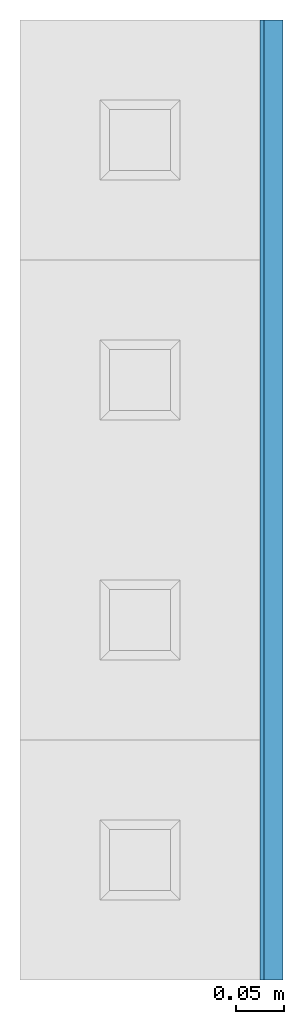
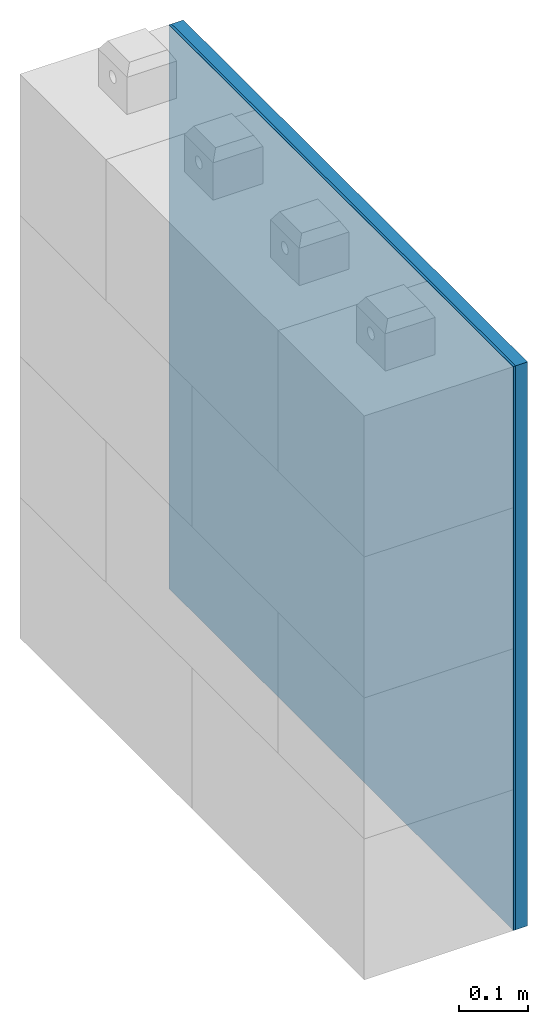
# One storey, incomplete: 2 walls.
"""IFC4 building model written with IfcOpenShell, lengths in centimetres."""

from ifc_helpers import new_model, si_unit, direction, frame, origin, place, context, subcontext, project, spatial, indexed_curve, outline, extrude, material, constituent, constituent_set, type_object, element, save


model = new_model("IFC4")

# Units and contexts
model_context = context("Model", 3, precision=0.001, world=origin(), true_north=direction((0.0, 1.0)))
body_context = subcontext(model_context, "Body", "Model", "MODEL_VIEW")
ifc_project = project(units=[si_unit("LENGTHUNIT", "METRE", prefix="CENTI"), si_unit("AREAUNIT", "SQUARE_METRE"), si_unit("VOLUMEUNIT", "CUBIC_METRE")], contexts=[model_context])

# Site, building, storey
site_placement = place(None, origin())
site = spatial("IfcSite", under=ifc_project, at=site_placement, Name="Default", CompositionType="ELEMENT")
building_placement = place(site_placement, origin())
building = spatial("IfcBuilding", under=site, at=building_placement, CompositionType="ELEMENT")
storey_placement = place(building_placement, frame((0.0, 0.0, -12.0)))
storey = spatial("IfcBuildingStorey", under=building, at=storey_placement, Name="L00__ABOVE Slab", CompositionType="ELEMENT", Elevation=-12.000000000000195)

# Walls
ifc_material_1 = material(Name="_WLL & CLG FINISHES__Spray-cork", Category="플라스틱")
ifc_constituent = constituent(ifc_material_1, Name="_WLL & CLG FINISHES__Spray-cork", Category="플라스틱", fraction=1.0)
ifc_constituent_set = constituent_set(constituents=[ifc_constituent], Name="Basic Wall:wll__INT FINISH__Spritzkork 0.4cm__TriqBriq, TN.1")
wall_type_1 = type_object("IfcWallType", Name="Walls : Basic Wall : wll__INT FINISH__Spritzkork 0.4cm__TriqBriq, TN.1", PredefinedType="STANDARD", material=ifc_constituent_set)
wall_1_placement = place(storey_placement, frame((4643.349456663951, 1920.4017723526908, 10.0), z_axis=(0.0, 0.0, 1.0), x_axis=(0.0, -1.0, 0.0)))
element("IfcWall", 1, at=wall_1_placement, inside=storey, type_object=wall_type_1, material=ifc_constituent_set, Name="Walls : Basic Wall : wll__INT FINISH__Spritzkork 0.4cm__TriqBriq, TN.1", PredefinedType="NOTDEFINED", context=body_context, shape_type="SweptSolid", body=[
    extrude(outline(indexed_curve([(100.00000000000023, 0.2000000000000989), (-2.8876456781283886e-16, 0.19999999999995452), (2.8876456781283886e-16, -0.19999999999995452), (100.00000000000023, -0.19999999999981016), (100.00000000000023, 0.2000000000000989)], self_intersect=False)), origin(), (0.0, 0.0, 1.0), 100.00000000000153),
])
ifc_material_2 = material(Name="_STRUCTURE__WoodVertical")
wall_type_2 = type_object("IfcWallType", Name="Walls : Basic Wall : wll__EXT__Holzfassafenprofil1__TriqBriq", PredefinedType="STANDARD")
wall_2_placement = place(storey_placement, frame((4644.549456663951, 1920.4017723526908, 10.0), z_axis=(0.0, 0.0, 1.0), x_axis=(0.0, -1.0, 0.0)))
element("IfcWall", 2, at=wall_2_placement, inside=storey, type_object=wall_type_2, material=ifc_material_2, Name="Walls : Basic Wall : wll__EXT__Holzfassafenprofil1__TriqBriq", PredefinedType="NOTDEFINED", context=body_context, shape_type="SweptSolid", body=[
    extrude(outline(indexed_curve([(100.00000000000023, 0.9999999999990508), (-1.4438228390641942e-15, 0.9999999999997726), (1.4438228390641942e-15, -0.9999999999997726), (100.00000000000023, -1.0000000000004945), (100.00000000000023, 0.9999999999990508)], self_intersect=False)), origin(), (0.0, 0.0, 1.0), 100.00000000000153),
])

save(model, "model.ifc")
